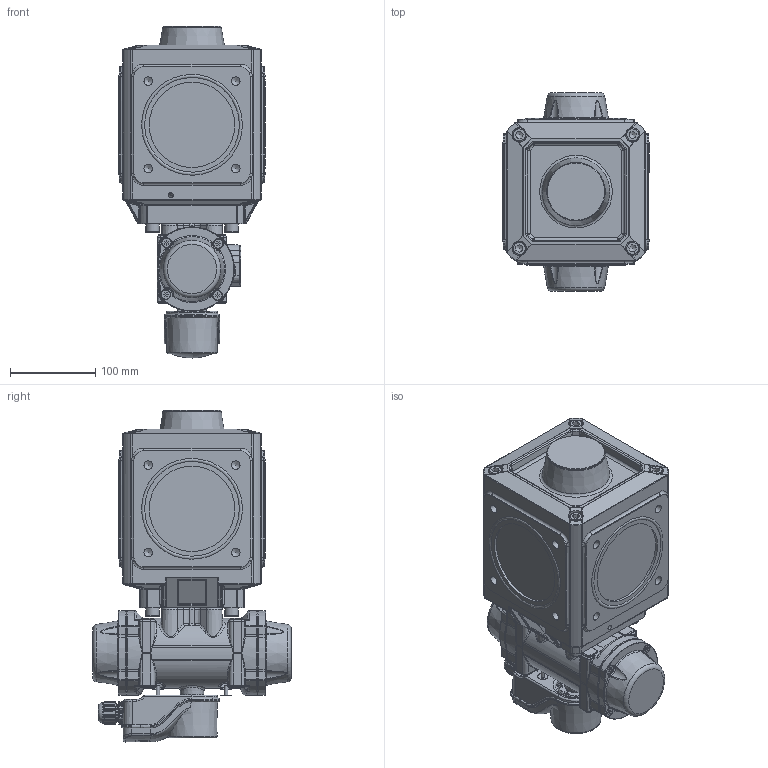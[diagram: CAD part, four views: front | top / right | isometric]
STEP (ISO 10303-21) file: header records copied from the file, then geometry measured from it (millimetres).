
FILE_DESCRIPTION(/* description */ (''),/* implementation_level */ '2;1');
FILE_NAME(/* name */ 'E:\WorkSpace\Designs\1700\1700085.stp',/* time_stamp */ '2022-11-17T12:56:48+01:00',/* author */ ('JJ'),/* organization */ (''),/* preprocessor_version */ 'ST-DEVELOPER v18.1',/* originating_system */ 'Autodesk Inventor 2022',/* authorisation */ '');
FILE_SCHEMA (('AUTOMOTIVE_DESIGN { 1 0 10303 214 3 1 1 }'));
Products named in the file (1): 1700085
Bounding box: 171.78 x 232.5 x 389.01 mm (x, y, z)
Volume: 6736005.6 mm3; surface area: 404704.7 mm2
Topology: 1 solids, 1 shells, 2997 faces, 7444 edges, 4470 vertices
Faces by surface type: plane 836, cylinder 776, bspline 699, torus 320, cone 294, sphere 72
Full cylindrical faces by diameter (mm): 4 x2, 4.2 x4, 4.33 x4, 6 x1, 6.4 x4, 8.5 x2, 10.106 x16, 13.3 x2, 15 x1, 16 x16, 17 x8, 17.9 x1, 20 x2, 20.2 x1, 21.8 x1, 24 x2, 26.4 x1, 28 x1, 29 x1, 31.95 x1, 55 x1, 68 x1, 74.7 x1, 100 x4
Entity records: 169641 total; most frequent: CARTESIAN_POINT 100084, ORIENTED_EDGE 14722, DIRECTION 12918, EDGE_CURVE 7361, AXIS2_PLACEMENT_3D 5039, VERTEX_POINT 4470, EDGE_LOOP 3139, STYLED_ITEM 2998
